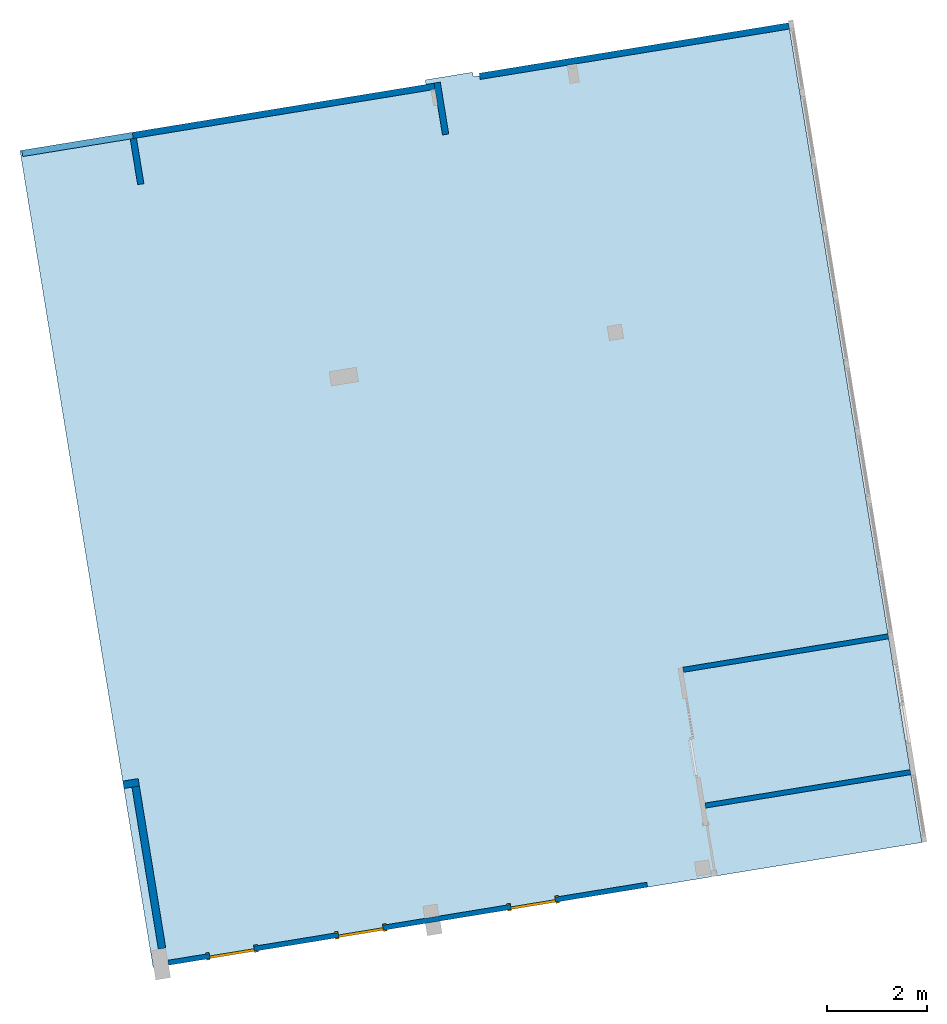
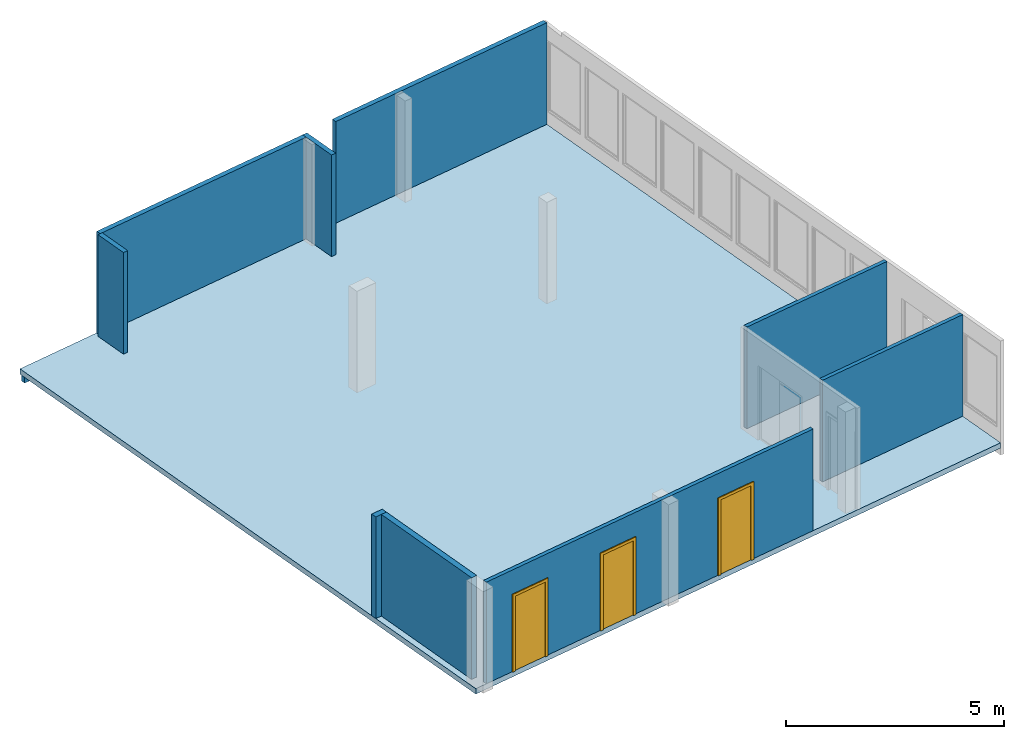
# One storey, part 3 of 5: 9 walls, 3 doors, 1 slab, 4 openings.
"""IFC2X3 building model written with IfcOpenShell, lengths in millimetres."""

import ifcopenshell
import ifcopenshell.guid

model = None  # the IFC model being written
_history = None  # IfcOwnerHistory: only IFC2X3 demands one
_inside = {}  # id of a spatial element -> (the spatial element, [elements in it])
_under = {}  # id of a project, library or spatial element -> (it, [spatial elements below it])
_declared = {}  # id of a project -> (the project, [libraries it declares])
_typed = {}  # id of a type object -> (the type object, [elements of that type])
_made_of = {}  # id of a material, layer set ... -> (it, [elements and type objects made of it])


def new_model(schema):
    """Start an empty IFC model of exactly this schema.

    Asked for "IFC4X3", IfcOpenShell would pick the latest addendum, in which some entities
    have other attributes; the version numbers below select the first issue.
    IFC2X3 requires an IfcOwnerHistory on every rooted entity: one is made here for all.
    """
    global model, _history
    if schema == "IFC4X3":
        model = ifcopenshell.file(schema_version=(4, 3, 0, 0))
    else:
        model = ifcopenshell.file(schema=schema)
    _inside.clear()
    _under.clear()
    _declared.clear()
    _typed.clear()
    _made_of.clear()
    _history = None
    if model.schema == "IFC2X3":
        org = make("IfcOrganization", Name="unknown")
        user = make(
            "IfcPersonAndOrganization",
            ThePerson=make("IfcPerson", FamilyName="unknown"),
            TheOrganization=org,
        )
        app = make(
            "IfcApplication",
            ApplicationDeveloper=org,
            Version="unknown",
            ApplicationFullName="unknown",
            ApplicationIdentifier="unknown",
        )
        _history = make(
            "IfcOwnerHistory",
            OwningUser=user,
            OwningApplication=app,
            ChangeAction="ADDED",
            CreationDate=0,
        )
    return model


def make(cls, **values):
    """One entity of the class cls with the attributes given. An attribute that is None is left unset."""
    return model.create_entity(
        cls, **{name: value for name, value in values.items() if value is not None}
    )


def entity(cls, *values):
    """Any entity or typed value of the class cls, its attributes in the order of the schema. None: left unset."""
    e = model.create_entity(cls)
    for i, value in enumerate(values):
        if value is not None:
            e[i] = value
    return e


def rooted(cls, **values):
    """An entity with a GlobalId (a new one), such as an element, a storey or a relation."""
    return make(cls, GlobalId=ifcopenshell.guid.new(), OwnerHistory=_history, **values)


def si_unit(unit_type, name, prefix=None):
    """IfcSIUnit, for example si_unit("LENGTHUNIT", "METRE", prefix="MILLI")."""
    return make("IfcSIUnit", UnitType=unit_type, Prefix=prefix, Name=name)


def converted_unit(unit_type, name, factor, base, dimensions=None, offset=None):
    """IfcConversionBasedUnit, such as the inch: factor (a typed value) times the base unit."""
    return make(
        "IfcConversionBasedUnit"
        if offset is None
        else "IfcConversionBasedUnitWithOffset",
        ConversionOffset=offset,
        Dimensions=None
        if dimensions is None
        else entity("IfcDimensionalExponents", *dimensions),
        UnitType=unit_type,
        Name=name,
        ConversionFactor=make(
            "IfcMeasureWithUnit", ValueComponent=factor, UnitComponent=base
        ),
    )


def derived_unit(unit_type, elements):
    """IfcDerivedUnit: a product of units, each with its exponent."""
    return make(
        "IfcDerivedUnit",
        Elements=[
            make("IfcDerivedUnitElement", Unit=unit, Exponent=power)
            for unit, power in elements
        ],
        UnitType=unit_type,
    )


def assignment(units):
    """IfcUnitAssignment: the units of a project."""
    return None if units is None else make("IfcUnitAssignment", Units=units)


def point(xyz):
    """IfcCartesianPoint."""
    return None if xyz is None else make("IfcCartesianPoint", Coordinates=xyz)


def direction(xyz):
    """IfcDirection."""
    return None if xyz is None else make("IfcDirection", DirectionRatios=xyz)


def frame(location, z_axis=None, x_axis=None):
    """IfcAxis2Placement3D, a coordinate frame: its origin and axes. An axis left out is left unset."""
    return make(
        "IfcAxis2Placement3D",
        Location=point(location),
        Axis=direction(z_axis),
        RefDirection=direction(x_axis),
    )


def frame_2d(location, x_axis=None):
    """IfcAxis2Placement2D, a coordinate frame in the plane: its origin and x axis."""
    return make(
        "IfcAxis2Placement2D", Location=point(location), RefDirection=direction(x_axis)
    )


def origin():
    """The frame at (0, 0, 0) with its axes left unset."""
    return frame((0.0, 0.0, 0.0))


def origin_with_axes():
    """The frame at (0, 0, 0) with the z axis (0, 0, 1) and the x axis (1, 0, 0) written out."""
    return frame((0.0, 0.0, 0.0), z_axis=(0.0, 0.0, 1.0), x_axis=(1.0, 0.0, 0.0))


def origin_2d_with_axis():
    """The frame at (0, 0) in the plane with the x axis (1, 0) written out."""
    return frame_2d((0.0, 0.0), x_axis=(1.0, 0.0))


def place(relative_to, where):
    """IfcLocalPlacement: puts the frame where relative to a parent placement (None: the world)."""
    return make(
        "IfcLocalPlacement", PlacementRelTo=relative_to, RelativePlacement=where
    )


def context(
    kind, dimensions, precision=None, world=None, true_north=None, identifier=None
):
    """IfcGeometricRepresentationContext, for example the 3D "Model" context."""
    return make(
        "IfcGeometricRepresentationContext",
        ContextIdentifier=identifier,
        ContextType=kind,
        CoordinateSpaceDimension=dimensions,
        Precision=precision,
        WorldCoordinateSystem=world,
        TrueNorth=true_north,
    )


def subcontext(parent, identifier, kind, view, scale=None):
    """IfcGeometricRepresentationSubContext, for example "Body" below "Model"."""
    return make(
        "IfcGeometricRepresentationSubContext",
        ContextIdentifier=identifier,
        ContextType=kind,
        ParentContext=parent,
        TargetScale=scale,
        TargetView=view,
    )


def project(units=None, contexts=None):
    """IfcProject with its units and contexts."""
    return rooted(
        "IfcProject",
        Name="project",
        RepresentationContexts=contexts,
        UnitsInContext=assignment(units),
    )


def spatial(cls, under=None, at=None, **own):
    """A site, building, storey or space (cls), placed at a placement, below another one or the project."""
    s = rooted(cls, ObjectPlacement=at, **own)
    if under is not None:
        _under.setdefault(under.id(), (under, []))[1].append(s)
    return s


def polyline(points):
    """IfcPolyline through the points."""
    return make("IfcPolyline", Points=[point(p) for p in points])


def profile(cls, at=None, kind="AREA", **sizes):
    """A parametric profile (cls). Its sizes go by their IFC names, for example OverallWidth=200.0."""
    return make(cls, ProfileType=kind, Position=at, **sizes)


def rectangle(**sizes):
    """IfcRectangleProfileDef."""
    return profile("IfcRectangleProfileDef", **sizes)


def outline(outer, holes=None, kind="AREA"):
    """IfcArbitraryClosedProfileDef: a profile drawn as a closed curve; with holes, ...WithVoids."""
    if holes is None:
        return make("IfcArbitraryClosedProfileDef", ProfileType=kind, OuterCurve=outer)
    return make(
        "IfcArbitraryProfileDefWithVoids",
        ProfileType=kind,
        OuterCurve=outer,
        InnerCurves=holes,
    )


def extrude(swept, where, along, depth):
    """IfcExtrudedAreaSolid: the profile swept, set in the frame where, extruded along a direction by depth."""
    return make(
        "IfcExtrudedAreaSolid",
        SweptArea=swept,
        Position=where,
        ExtrudedDirection=direction(along),
        Depth=depth,
    )


def faces_of(points, faces, orient=None, outer=None):
    """IfcFace entities. A face is a list of loops; a loop is a list of indices into points, from 0.

    orient and outer hold one flag for each loop. By default every Orientation is true, the
    first loop of a face is its IfcFaceOuterBound and the others are IfcFaceBound.
    """
    made = []
    for i, loops in enumerate(faces):
        bounds = []
        for j, loop in enumerate(loops):
            is_outer = j == 0 if outer is None else outer[i][j]
            bounds.append(
                make(
                    "IfcFaceOuterBound" if is_outer else "IfcFaceBound",
                    Bound=make("IfcPolyLoop", Polygon=[points[k] for k in loop]),
                    Orientation=True if orient is None else orient[i][j],
                )
            )
        made.append(make("IfcFace", Bounds=bounds))
    return made


def faceted_brep(points, faces, orient=None, outer=None, voids=None):
    """IfcFacetedBrep: a solid bounded by flat faces; with voids (closed shells), ...WithVoids."""
    shared = [point(p) for p in points]
    hull = make("IfcClosedShell", CfsFaces=faces_of(shared, faces, orient, outer))
    if voids is None:
        return make("IfcFacetedBrep", Outer=hull)
    return make(
        "IfcFacetedBrepWithVoids",
        Outer=hull,
        Voids=[
            make(cls, CfsFaces=faces_of(shared, fs, o, b)) for cls, fs, o, b in voids
        ],
    )


def shape(context_of_items, identifier, shape_type, items):
    """IfcShapeRepresentation: the items that make up one representation, for example the "Body"."""
    return make(
        "IfcShapeRepresentation",
        ContextOfItems=context_of_items,
        RepresentationIdentifier=identifier,
        RepresentationType=shape_type,
        Items=items,
    )


def source(mapping_origin, context_of_items, identifier, shape_type, items):
    """IfcRepresentationMap: a shape defined once, which mapped items show again and again."""
    return make(
        "IfcRepresentationMap",
        MappingOrigin=mapping_origin,
        MappedRepresentation=shape(context_of_items, identifier, shape_type, items),
    )


def transform(
    local_origin,
    x_axis=None,
    y_axis=None,
    z_axis=None,
    scale=None,
    scale2=None,
    scale3=None,
    uniform=True,
):
    """IfcCartesianTransformationOperator3D, or its non-uniform kind. x_axis, y_axis, z_axis: its Axis1, 2, 3."""
    if uniform:
        return make(
            "IfcCartesianTransformationOperator3D",
            Axis1=direction(x_axis),
            Axis2=direction(y_axis),
            LocalOrigin=point(local_origin),
            Scale=scale,
            Axis3=direction(z_axis),
        )
    return make(
        "IfcCartesianTransformationOperator3DnonUniform",
        Axis1=direction(x_axis),
        Axis2=direction(y_axis),
        LocalOrigin=point(local_origin),
        Scale=scale,
        Axis3=direction(z_axis),
        Scale2=scale2,
        Scale3=scale3,
    )


def mapped(mapping_source, mapping_target):
    """IfcMappedItem: shows the shape of a source again, moved by a transform."""
    return make(
        "IfcMappedItem", MappingSource=mapping_source, MappingTarget=mapping_target
    )


def material(Name=None, Category=None):
    """IfcMaterial."""
    return make("IfcMaterial", Name=Name, Category=Category)


def material_list(materials):
    """IfcMaterialList."""
    return make("IfcMaterialList", Materials=materials)


def layer(
    of_material, thickness, ventilated=None, Name=None, Category=None, Priority=None
):
    """IfcMaterialLayer: one layer of a wall or slab, of a material (None: an air gap)."""
    return make(
        "IfcMaterialLayer",
        Material=of_material,
        LayerThickness=thickness,
        IsVentilated=ventilated,
        Name=Name,
        Category=Category,
        Priority=Priority,
    )


def layer_set(layers, Name=None):
    """IfcMaterialLayerSet."""
    return make("IfcMaterialLayerSet", MaterialLayers=layers, LayerSetName=Name)


def layer_usage(for_layer_set, set_direction, sense, offset, extent=None):
    """IfcMaterialLayerSetUsage: how a layer set lies in its element."""
    return make(
        "IfcMaterialLayerSetUsage",
        ForLayerSet=for_layer_set,
        LayerSetDirection=set_direction,
        DirectionSense=sense,
        OffsetFromReferenceLine=offset,
        ReferenceExtent=extent,
    )


def made_of(thing, what):
    """Note that an element or type object is made of a material, layer set ...; save() writes the relation."""
    if what is not None:
        _made_of.setdefault(what.id(), (what, []))[1].append(thing)
    return thing


def type_object(cls, material=None, **own):
    """A type object (cls), such as IfcWallType, which elements share."""
    return made_of(rooted(cls, **own), material)


def element(
    cls,
    number,
    at=None,
    inside=None,
    cuts=None,
    type_object=None,
    material=None,
    context=None,
    identifier="Body",
    shape_type=None,
    held_by="IfcProductDefinitionShape",
    body=None,
    shapes=None,
    **own,
):
    """One element of the class cls, such as IfcWall. Its Tag is "e" and its number.

    at: its placement. inside: the storey or other place that contains it. cuts: it is an
    opening in that element (IfcRelVoidsElement). A single representation is given by context,
    identifier, shape_type and body (its items); several are given by shapes. held_by: the class
    of the entity that holds the representations. save() writes the other relations.
    """
    e = rooted(cls, Tag="e%d" % number, ObjectPlacement=at, **own)
    if body is not None:
        shapes = [shape(context, identifier, shape_type, body)]
    if shapes is not None:
        e.Representation = make(held_by, Representations=shapes)
    if inside is not None:
        _inside.setdefault(inside.id(), (inside, []))[1].append(e)
    if cuts is not None:
        rooted(
            "IfcRelVoidsElement", RelatingBuildingElement=cuts, RelatedOpeningElement=e
        )
    if type_object is not None:
        _typed.setdefault(type_object.id(), (type_object, []))[1].append(e)
    return made_of(e, material)


def fill(opening, filler):
    """IfcRelFillsElement: the door or window that sits in an opening."""
    return rooted(
        "IfcRelFillsElement",
        RelatingOpeningElement=opening,
        RelatedBuildingElement=filler,
    )


def aggregate(whole, parts):
    """IfcRelAggregates: a whole, such as a stair, and the parts it consists of."""
    return rooted("IfcRelAggregates", RelatingObject=whole, RelatedObjects=parts)


def save(model, path):
    """Write the relations noted so far, then the file.

    IfcRelAggregates (storeys below a building ...), IfcRelContainedInSpatialStructure (elements
    in a storey), IfcRelDefinesByType, IfcRelAssociatesMaterial and IfcRelDeclares: one each for
    every whole, place, type object, material and project.
    """
    for whole, parts in _under.values():
        aggregate(whole, parts)
    for where, things in _inside.values():
        rooted(
            "IfcRelContainedInSpatialStructure",
            RelatedElements=things,
            RelatingStructure=where,
        )
    for kind, things in _typed.values():
        rooted("IfcRelDefinesByType", RelatedObjects=things, RelatingType=kind)
    for what, things in _made_of.values():
        rooted("IfcRelAssociatesMaterial", RelatedObjects=things, RelatingMaterial=what)
    for by, libraries in _declared.values():
        rooted("IfcRelDeclares", RelatingContext=by, RelatedDefinitions=libraries)
    model.write(path)


model = new_model("IFC2X3")

# Units and contexts
model_context = context("Model", 3, precision=0.01, world=origin(), true_north=direction((6.12323399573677e-17, 1.0)))
plan_context = context("Plan", 3, precision=1e-05, world=origin_with_axes())
body_context = subcontext(model_context, "Body", "Model", "MODEL_VIEW")
ifc_project = project(units=[converted_unit("PLANEANGLEUNIT", "DEGREE", entity("IfcPositiveLengthMeasure", 0.0174532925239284), si_unit("PLANEANGLEUNIT", "RADIAN"), dimensions=[0, 0, 0, 0, 0, 0, 0]), si_unit("AREAUNIT", "SQUARE_METRE"), si_unit("LENGTHUNIT", "METRE", prefix="MILLI"), si_unit("MASSUNIT", "GRAM", prefix="KILO"), si_unit("POWERUNIT", "WATT"), si_unit("PRESSUREUNIT", "PASCAL", prefix="KILO"), si_unit("FORCEUNIT", "NEWTON", prefix="KILO"), si_unit("ELECTRICVOLTAGEUNIT", "VOLT"), si_unit("ELECTRICCURRENTUNIT", "AMPERE"), si_unit("THERMODYNAMICTEMPERATUREUNIT", "DEGREE_CELSIUS"), si_unit("TIMEUNIT", "SECOND"), si_unit("VOLUMEUNIT", "CUBIC_METRE"), derived_unit("LINEARVELOCITYUNIT", [(si_unit("LENGTHUNIT", "METRE"), 1), (si_unit("TIMEUNIT", "SECOND"), -1)]), derived_unit("VOLUMETRICFLOWRATEUNIT", [(si_unit("VOLUMEUNIT", "CUBIC_METRE"), 1), (si_unit("TIMEUNIT", "SECOND"), -1)]), derived_unit("THERMALTRANSMITTANCEUNIT", [(si_unit("POWERUNIT", "WATT"), 1), (si_unit("THERMODYNAMICTEMPERATUREUNIT", "KELVIN"), -1), (si_unit("AREAUNIT", "SQUARE_METRE"), -1)]), derived_unit("SOUNDPRESSUREUNIT", [(si_unit("PRESSUREUNIT", "PASCAL"), 1)])], contexts=[model_context, plan_context])

# Site, building, storey
site_placement = place(None, frame((118326.676922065, 1366174.45681126, 48360.0), z_axis=(0.0, 0.0, 1.0), x_axis=(0.160815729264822, -0.986984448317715, 0.0)))
site = spatial("IfcSite", under=ifc_project, at=site_placement, Name="Default", CompositionType="ELEMENT")
building_placement = place(site_placement, origin_with_axes())
building = spatial("IfcBuilding", under=site, at=building_placement, Name="br002", CompositionType="ELEMENT")
storey_placement = place(building_placement, frame((0.0, 0.0, 3850.0), z_axis=(0.0, 0.0, 1.0), x_axis=(1.0, 0.0, 0.0)))
storey = spatial("IfcBuildingStorey", under=building, at=storey_placement, Name="H01", CompositionType="ELEMENT", Elevation=3849.99999999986)

# Slab
ifc_material_1 = material(Name="Concrete, Cast In Situ")
ifc_layer_1 = layer(ifc_material_1, 150.0)
ifc_layer_set_1 = layer_set([ifc_layer_1], Name="Floor:Betong 150mm")
slab_type = type_object("IfcSlabType", Name="Floor:Betong 150mm", PredefinedType="FLOOR", material=ifc_layer_set_1)
slab_placement = place(storey_placement, origin_with_axes())
element("IfcSlab", 1, at=slab_placement, inside=storey, type_object=slab_type, Name="Floor:Betong 150mm", ObjectType="Floor:Betong 150mm", PredefinedType="FLOOR", context=body_context, shape_type="Brep", body=[
    faceted_brep([(24857.1710782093, 9287.17632785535, 200.0), (24857.1710782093, 9287.17632785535, 350.0), (24949.1710782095, 9287.17632785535, 350.0), (24949.1710782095, 9287.17632785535, 200.0), (24857.1710782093, 10247.1763278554, 350.0), (24857.1710782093, 10247.1763278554, 200.0), (24949.1710782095, 10247.1763278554, 200.0), (24949.1710782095, 10247.1763278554, 350.0), (24949.1710782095, 16637.1763278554, 200.0), (24949.1710782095, 16637.1763278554, 350.0), (41499.1710782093, 16637.1763278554, 200.0), (41499.1710782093, 16637.1763278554, 350.0), (24949.1710782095, 1064.6763278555, 350.0), (24949.1710782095, 1064.6763278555, 200.0), (41499.1710782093, 1064.67632785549, 350.0), (41499.1710782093, 1064.67632785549, 200.0)], [[[0, 1, 2, 3]], [[4, 5, 6, 7]], [[7, 6, 8, 9]], [[10, 11, 9, 8]], [[12, 13, 3, 2]], [[1, 4, 7, 9, 11, 14, 12, 2]], [[13, 15, 10, 8, 6, 5, 0, 3]], [[14, 11, 10, 15]], [[5, 4, 1, 0]], [[15, 13, 12, 14]]], orient=[[False], [False], [False], [False], [False], [False], [False], [False], [False], [False]]),
])

# Walls
ifc_material_2 = material(Name="Gypsum Wall Board")
ifc_layer_2 = layer(ifc_material_2, 13.0)
ifc_material_3 = material(Name="Rock Wool")
ifc_layer_3 = layer(ifc_material_3, 100.0)
ifc_layer_4 = layer(ifc_material_2, 13.0)
ifc_layer_set_2 = layer_set([ifc_layer_2, ifc_layer_3, ifc_layer_4], Name="Basic Wall:B 06 126 mm Innervegg- Våtrom")
ifc_layer_usage_1 = layer_usage(ifc_layer_set_2, "AXIS2", "NEGATIVE", 63.0)
wall_type_1 = type_object("IfcWallType", Name="Basic Wall:B 06 126 mm Innervegg- Våtrom", PredefinedType="STANDARD", material=ifc_layer_set_2)
wall_1_placement = place(storey_placement, frame((24961.1710782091, 10373.1763278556, 0.0), z_axis=(0.0, 0.0, 1.0), x_axis=(0.0, 1.0, 0.0)))
element("IfcWallStandardCase", 2, at=wall_1_placement, inside=storey, type_object=wall_type_1, material=ifc_layer_usage_1, Name="Basic Wall:B 06 126 mm Innervegg- Våtrom", ObjectType="Basic Wall:B 06 126 mm Innervegg- Våtrom", context=body_context, shape_type="SweptSolid", body=[
    extrude(rectangle(XDim=6264.00000000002, YDim=125.999999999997, at=frame_2d((3132.00000000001, 2.1316282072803e-14), x_axis=(-1.0, 0.0))), origin(), (0.0, 0.0, 1.0), 3199.9999999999),
])
ifc_layer_5 = layer(ifc_material_2, 15.0)
ifc_material_4 = material(Name="Structure, Timber Joist/Rafter Layer")
ifc_layer_6 = layer(ifc_material_4, 96.0)
ifc_layer_7 = layer(ifc_material_2, 15.0)
ifc_layer_set_3 = layer_set([ifc_layer_5, ifc_layer_6, ifc_layer_7], Name="Basic Wall:B 09  126mm Halvvegg")
ifc_layer_usage_2 = layer_usage(ifc_layer_set_3, "AXIS2", "NEGATIVE", 63.0)
wall_type_2 = type_object("IfcWallType", Name="Basic Wall:B 09  126mm Halvvegg", PredefinedType="STANDARD", material=ifc_layer_set_3)
wall_2_placement = place(storey_placement, frame((25999.1710782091, 9513.98092483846, 0.0), z_axis=(0.0, 0.0, 1.0), x_axis=(-1.0, 0.0, 0.0)))
element("IfcWallStandardCase", 3, at=wall_2_placement, inside=storey, type_object=wall_type_2, material=ifc_layer_usage_2, Name="Basic Wall:B 09  126mm Halvvegg", ObjectType="Basic Wall:B 09  126mm Halvvegg", context=body_context, shape_type="SweptSolid", body=[
    extrude(rectangle(XDim=1049.99999999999, YDim=126.0, at=frame_2d((524.999999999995, 6.75015598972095e-14), x_axis=(-1.0, 0.0))), origin(), (0.0, 0.0, 1.0), 3199.9999999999),
])

# Wall, opening
ifc_layer_usage_3 = layer_usage(ifc_layer_set_3, "AXIS2", "NEGATIVE", 63.0)
wall_3_placement = place(storey_placement, frame((25012.1710782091, 9450.9809248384, 0.0), z_axis=(0.0, 0.0, 1.0), x_axis=(0.0, -1.0, 0.0)))
wall_3 = element("IfcWallStandardCase", 4, at=wall_3_placement, inside=storey, type_object=wall_type_2, material=ifc_layer_usage_3, Name="Basic Wall:B 09  126mm Halvvegg", ObjectType="Basic Wall:B 09  126mm Halvvegg", context=body_context, shape_type="SweptSolid", body=[
    extrude(rectangle(XDim=8348.80459698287, YDim=125.999999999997, at=frame_2d((4174.40229849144, -7.60280727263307e-13), x_axis=(-1.0, 0.0))), origin(), (0.0, 0.0, 1.0), 3199.9999999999),
])
opening_1_placement = place(wall_3_placement, origin_with_axes())
element("IfcOpeningElement", 5, at=opening_1_placement, cuts=wall_3, Name="Basic Wall:B 09  126mm Halvvegg", ObjectType="Opening", context=body_context, shape_type="SweptSolid", body=[
    extrude(rectangle(XDim=2999.99999999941, YDim=2300.80459698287, at=frame_2d((3.41060513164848e-13, 0.0), x_axis=(1.0, 0.0))), frame((7261.40229849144, 63.0, 1700.0), z_axis=(0.0, -1.0, 0.0), x_axis=(0.0, 0.0, 1.0)), (0.0, 0.0, 1.0), 126.0),
])

# Walls
ifc_layer_usage_4 = layer_usage(ifc_layer_set_3, "AXIS2", "NEGATIVE", 63.0)
wall_4_placement = place(storey_placement, frame((25075.1710782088, 3339.9809248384, 0.0), z_axis=(0.0, 0.0, 1.0), x_axis=(1.0, 0.0, 0.0)))
element("IfcWallStandardCase", 6, at=wall_4_placement, inside=storey, type_object=wall_type_2, material=ifc_layer_usage_4, Name="Basic Wall:B 09  126mm Halvvegg", ObjectType="Basic Wall:B 09  126mm Halvvegg", context=body_context, shape_type="SweptSolid", body=[
    extrude(rectangle(XDim=923.999999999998, YDim=126.0, at=frame_2d((461.999999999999, -1.3855583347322e-13), x_axis=(-1.0, 0.0))), origin(), (0.0, 0.0, 1.0), 3199.9999999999),
])
ifc_layer_8 = layer(ifc_material_2, 13.0)
ifc_layer_9 = layer(ifc_material_4, 74.0)
ifc_layer_10 = layer(ifc_material_2, 13.0)
ifc_layer_set_4 = layer_set([ifc_layer_8, ifc_layer_9, ifc_layer_10], Name="Basic Wall:E 01 100 mm Innervegg")
ifc_layer_usage_5 = layer_usage(ifc_layer_set_4, "AXIS2", "NEGATIVE", 50.0)
wall_type_3 = type_object("IfcWallType", Name="Basic Wall:E 01 100 mm Innervegg", PredefinedType="STANDARD", material=ifc_layer_set_4)
wall_5_placement = place(storey_placement, frame((37324.1710782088, 12477.1763278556, 350.0), z_axis=(0.0, 0.0, 1.0), x_axis=(0.0, 1.0, 0.0)))
element("IfcWallStandardCase", 7, at=wall_5_placement, inside=storey, type_object=wall_type_3, material=ifc_layer_usage_5, Name="Basic Wall:E 01 100 mm Innervegg", ObjectType="Basic Wall:E 01 100 mm Innervegg", context=body_context, shape_type="SweptSolid", body=[
    extrude(rectangle(XDim=4160.00000000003, YDim=100.000000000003, at=frame_2d((2080.00000000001, -9.2370555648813e-14), x_axis=(-1.0, 0.0))), origin(), (0.0, 0.0, 1.0), 2849.9999999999),
])
ifc_layer_usage_6 = layer_usage(ifc_layer_set_4, "AXIS2", "NEGATIVE", 50.0)
wall_6_placement = place(storey_placement, frame((40074.1710782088, 12477.1763278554, 350.0), z_axis=(0.0, 0.0, 1.0), x_axis=(0.0, 1.0, 0.0)))
element("IfcWallStandardCase", 8, at=wall_6_placement, inside=storey, type_object=wall_type_3, material=ifc_layer_usage_6, Name="Basic Wall:E 01 100 mm Innervegg", ObjectType="Basic Wall:E 01 100 mm Innervegg", context=body_context, shape_type="SweptSolid", body=[
    extrude(rectangle(XDim=4160.00000000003, YDim=100.000000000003, at=frame_2d((2080.00000000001, -9.2370555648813e-14), x_axis=(-1.0, 0.0))), origin(), (0.0, 0.0, 1.0), 2849.9999999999),
])

# Wall, openings, doors
ifc_layer_usage_7 = layer_usage(ifc_layer_set_4, "AXIS2", "NEGATIVE", 50.0)
wall_7_placement = place(storey_placement, frame((41449.1710782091, 1377.17632785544, 350.0), z_axis=(0.0, 0.0, 1.0), x_axis=(0.0, 1.0, 0.0)))
wall_7 = element("IfcWallStandardCase", 9, at=wall_7_placement, inside=storey, type_object=wall_type_3, material=ifc_layer_usage_7, Name="Basic Wall:E 01 100 mm Innervegg", ObjectType="Basic Wall:E 01 100 mm Innervegg", context=body_context, shape_type="SweptSolid", body=[
    extrude(rectangle(XDim=9700.0, YDim=100.000000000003, at=frame_2d((4850.0, -5.14077669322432e-12), x_axis=(1.0, 0.0))), origin(), (0.0, 0.0, 1.0), 2849.9999999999),
])
opening_2_placement = place(wall_7_placement, frame((7840.0, 50.0000000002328, 0.0), z_axis=(0.0, 0.0, 1.0), x_axis=(1.0, 0.0, 0.0)))
opening_2 = element("IfcOpeningElement", 10, at=opening_2_placement, cuts=wall_7, Name="M_Single-Flush:0900 x 2100 mm:1", ObjectType="Opening", context=body_context, shape_type="SweptSolid", body=[
    extrude(rectangle(XDim=900.0, YDim=2100.0, at=frame_2d((1050.0, 450.0), x_axis=(0.0, 1.0))), frame((0.0, 0.0, 0.0), z_axis=(0.0, -1.0, 0.0), x_axis=(0.0, 0.0, 1.0)), (0.0, 0.0, 1.0), 100.0),
])
opening_3_placement = place(wall_7_placement, frame((4350.00000000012, 50.0000000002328, 0.0), z_axis=(0.0, 0.0, 1.0), x_axis=(1.0, 0.0, 0.0)))
opening_3 = element("IfcOpeningElement", 11, at=opening_3_placement, cuts=wall_7, Name="M_Single-Flush:0900 x 2100 mm:1", ObjectType="Opening", context=body_context, shape_type="SweptSolid", body=[
    extrude(rectangle(XDim=900.0, YDim=2100.0, at=frame_2d((1050.0, 450.0), x_axis=(0.0, 1.0))), frame((0.0, 0.0, 0.0), z_axis=(0.0, -1.0, 0.0), x_axis=(0.0, 0.0, 1.0)), (0.0, 0.0, 1.0), 100.0),
])
opening_4_placement = place(wall_7_placement, frame((1740.0, 50.0, 0.0), z_axis=(0.0, 0.0, 1.0), x_axis=(1.0, 0.0, 0.0)))
opening_4 = element("IfcOpeningElement", 12, at=opening_4_placement, cuts=wall_7, Name="M_Single-Flush:0900 x 2100 mm:1", ObjectType="Opening", context=body_context, shape_type="SweptSolid", body=[
    extrude(rectangle(XDim=900.0, YDim=2100.0, at=frame_2d((1050.0, 450.0), x_axis=(0.0, -1.0))), frame((0.0, 0.0, 0.0), z_axis=(0.0, -1.0, 0.0), x_axis=(0.0, 0.0, 1.0)), (0.0, 0.0, 1.0), 100.0),
])
ifc_material_5 = material(Name="Door - Frame")
ifc_material_6 = material(Name="Door - Panel")
ifc_material_list = material_list([ifc_material_5, ifc_material_6])
door_style_1 = type_object("IfcDoorStyle", Name="M_Single-Flush:0900 x 2100 mm", ConstructionType="NOTDEFINED", OperationType="NOTDEFINED", ParameterTakesPrecedence=False, Sizeable=False, material=ifc_material_list)
shared_shape_1 = source(origin(), body_context, "Body", "SweptSolid", [
    extrude(outline(polyline([(-526.0, -1107.0), (526.0, -1107.0), (526.0, 1069.0), (450.0, 1069.0), (450.0, -1031.0), (-450.0, -1031.0), (-450.0, 1069.0), (-526.0, 1069.0), (-526.0, -1107.0)])), frame((450.0, 125.0, 1069.0), z_axis=(0.0, -1.0, 0.0), x_axis=(-1.0, 0.0, 0.0)), (0.0, 0.0, 1.0), 24.9999999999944),
    extrude(outline(polyline([(-1107.0, -526.0), (1069.0, -526.0), (1069.0, -450.0), (-1031.0, -450.0), (-1031.0, 450.0), (1069.0, 450.0), (1069.0, 526.0), (-1107.0, 526.0), (-1107.0, -526.0)])), frame((450.0, 0.0, 1069.0), z_axis=(0.0, -1.0, 0.0), x_axis=(0.0, 0.0, -1.0)), (0.0, 0.0, 1.0), 25.0000000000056),
    extrude(rectangle(XDim=900.0, YDim=51.0, at=origin_2d_with_axis()), frame((450.0, 74.4999999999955, 0.0)), (0.0, 0.0, 1.0), 2100.0),
])
door_1_placement = place(opening_4_placement, frame((0.0, 0.0, 0.0), z_axis=(0.0, 0.0, 1.0), x_axis=(-1.0, 0.0, 0.0)))
door_1 = element("IfcDoor", 13, at=door_1_placement, inside=storey, type_object=door_style_1, material=ifc_material_list, Name="M_Single-Flush:0900 x 2100 mm", ObjectType="M_Single-Flush:0900 x 2100 mm", OverallHeight=2100.0, OverallWidth=900.0, context=body_context, shape_type="MappedRepresentation", body=[
    mapped(shared_shape_1, transform((0.0, 0.0, 0.0), scale=1.0)),
])
fill(opening_4, door_1)
door_style_2 = type_object("IfcDoorStyle", Name="M_Single-Flush:0900 x 2100 mm", ConstructionType="NOTDEFINED", OperationType="NOTDEFINED", ParameterTakesPrecedence=False, Sizeable=False, material=ifc_material_list)
shared_shape_2 = source(origin(), body_context, "Body", "SweptSolid", [
    extrude(outline(polyline([(-526.0, -1107.0), (526.0, -1107.0), (526.0, 1069.0), (450.0, 1069.0), (450.0, -1031.0), (-450.0, -1031.0), (-450.0, 1069.0), (-526.0, 1069.0), (-526.0, -1107.0)])), frame((450.0, 100.0, 1069.0), z_axis=(0.0, 1.0, 0.0), x_axis=(1.0, 0.0, 0.0)), (0.0, 0.0, 1.0), 24.9999999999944),
    extrude(outline(polyline([(-1107.0, -526.0), (1069.0, -526.0), (1069.0, -450.0), (-1031.0, -450.0), (-1031.0, 450.0), (1069.0, 450.0), (1069.0, 526.0), (-1107.0, 526.0), (-1107.0, -526.0)])), frame((450.0, -25.0, 1069.0), z_axis=(0.0, 1.0, 0.0), x_axis=(0.0, 0.0, -1.0)), (0.0, 0.0, 1.0), 25.0000000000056),
    extrude(rectangle(XDim=51.0, YDim=900.0, at=origin_2d_with_axis()), frame((450.0, 74.5000000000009, 0.0), z_axis=(0.0, 0.0, 1.0), x_axis=(0.0, 1.0, 0.0)), (0.0, 0.0, 1.0), 2100.0),
])
door_2_placement = place(opening_2_placement, frame((0.0, 0.0, 0.0), z_axis=(0.0, 0.0, 1.0), x_axis=(-1.0, 0.0, 0.0)))
door_2 = element("IfcDoor", 14, at=door_2_placement, inside=storey, type_object=door_style_2, material=ifc_material_list, Name="M_Single-Flush:0900 x 2100 mm", ObjectType="M_Single-Flush:0900 x 2100 mm", OverallHeight=2100.0, OverallWidth=900.0, context=body_context, shape_type="MappedRepresentation", body=[
    mapped(shared_shape_2, transform((0.0, 0.0, 0.0), scale=1.0)),
])
fill(opening_2, door_2)
door_3_placement = place(opening_3_placement, frame((0.0, 0.0, 0.0), z_axis=(0.0, 0.0, 1.0), x_axis=(-1.0, 0.0, 0.0)))
door_3 = element("IfcDoor", 15, at=door_3_placement, inside=storey, type_object=door_style_2, material=ifc_material_list, Name="M_Single-Flush:0900 x 2100 mm", ObjectType="M_Single-Flush:0900 x 2100 mm", OverallHeight=2100.0, OverallWidth=900.0, context=body_context, shape_type="MappedRepresentation", body=[
    mapped(shared_shape_2, transform((0.0, 0.0, 0.0), scale=1.0)),
])
fill(opening_3, door_3)

# Walls
ifc_material_7 = material(Name="Metal Deck")
ifc_layer_11 = layer(ifc_material_7, 5.0)
ifc_material_8 = material(Name="Polyurethane Foam")
ifc_layer_12 = layer(ifc_material_8, 140.0)
ifc_layer_13 = layer(ifc_material_7, 5.0)
ifc_layer_set_5 = layer_set([ifc_layer_11, ifc_layer_12, ifc_layer_13], Name="Basic Wall:A 03 150 mm Planja Sand.")
ifc_layer_usage_8 = layer_usage(ifc_layer_set_5, "AXIS2", "NEGATIVE", 75.0)
wall_type_4 = type_object("IfcWallType", Name="Basic Wall:A 03 150 mm Planja Sand.", PredefinedType="STANDARD", material=ifc_layer_set_5)
wall_8_placement = place(storey_placement, frame((37869.1710782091, 1302.17632785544, 350.0), z_axis=(0.0, 0.0, 1.0), x_axis=(1.0, 0.0, 0.0)))
element("IfcWallStandardCase", 16, at=wall_8_placement, inside=storey, type_object=wall_type_4, material=ifc_layer_usage_8, Name="Basic Wall:A 03 150 mm Planja Sand.", ObjectType="Basic Wall:A 03 150 mm Planja Sand.", context=body_context, shape_type="SweptSolid", body=[
    extrude(rectangle(XDim=3280.0, YDim=150.0, at=frame_2d((1640.0, -5.6843418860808e-14), x_axis=(-1.0, 0.0))), origin(), (0.0, 0.0, 1.0), 2849.9999999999),
])
wall_9_placement = place(storey_placement, frame((37794.1710782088, -2170.63838546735, 350.0), z_axis=(0.0, 0.0, 1.0), x_axis=(0.0, 1.0, 0.0)))
element("IfcWall", 17, at=wall_9_placement, inside=storey, type_object=wall_type_4, Name="Basic Wall:A 03 150 mm Planja Sand.", ObjectType="Basic Wall:A 03 150 mm Planja Sand.", context=body_context, shape_type="Brep", body=[
    faceted_brep([(3547.81471332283, -75.0000000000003, 0.0), (3547.81471332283, -75.0000000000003, 2849.9999999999), (3547.81471332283, 75.0000000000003, 2849.9999999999), (3547.81471332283, 75.0000000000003, 0.0), (3235.31471332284, 75.0000000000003, 2849.9999999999), (3235.31471332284, 75.0000000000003, 0.0), (3235.31471332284, -75.0000000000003, 0.0), (3235.31471332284, -75.0000000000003, 2849.9999999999)], [[[0, 1, 2, 3]], [[4, 5, 3, 2]], [[6, 7, 1, 0]], [[5, 6, 0, 3]], [[7, 4, 2, 1]], [[7, 6, 5, 4]]], orient=[[False], [False], [False], [False], [False], [False]]),
])

save(model, "model.ifc")
